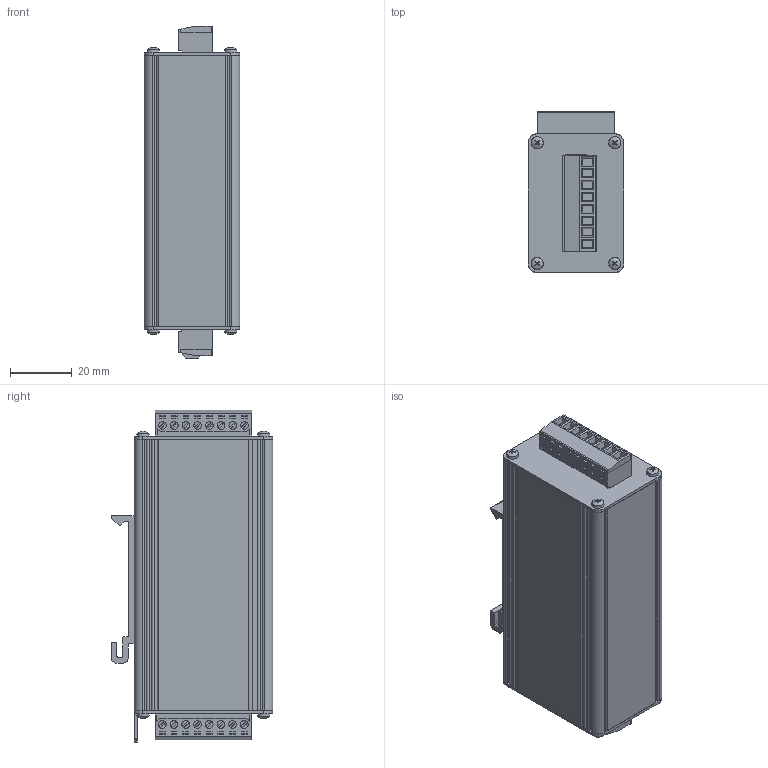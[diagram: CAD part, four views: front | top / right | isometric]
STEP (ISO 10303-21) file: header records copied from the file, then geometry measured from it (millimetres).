
FILE_DESCRIPTION(/* description */ (''),/* implementation_level */ '2;1');
FILE_NAME(/* name */ 'K:\PROJEKTY ROZPRACOVANÉ\MODELY DO KATALOGU\HT\3D - STEP\HT-D, NV4.stp',/* time_stamp */ '2021-07-15T09:39:02+02:00',/* author */ ('Melmen'),/* organization */ (''),/* preprocessor_version */ 'ST-DEVELOPER v18.1',/* originating_system */ 'Autodesk Inventor 2021',/* authorisation */ '');
FILE_SCHEMA (('AUTOMOTIVE_DESIGN { 1 0 10303 214 3 1 1 }'));
Length unit declared in the file: millimetre
Products named in the file (8): HT-D; HT; KONEKTOR DEGSON 15EDGK 3.81; KONEKTOR SAMEC; KONEKTOR SAMEC SOUČÁST; ISO 2009 - M1,6 x 2,5; KONEKTOR DEGSON 15EDGRC 3.81; ISO 7049 - ST 2,2 x 6,5 - C - H
Assembly tree (23 placements, depth 3):
  HT-D
    HT
    KONEKTOR DEGSON 15EDGK 3.81  x2
      KONEKTOR SAMEC
      KONEKTOR SAMEC SOUČÁST
      ISO 2009 - M1,6 x 2,5
    KONEKTOR DEGSON 15EDGRC 3.81  x2
    ISO 7049 - ST 2,2 x 6,5 - C - H  x8
Bounding box: 31 x 52.4 x 107.7 mm (x, y, z)
Volume: 128288.4 mm3; surface area: 38314.3 mm2
Topology: 31 solids, 31 shells, 1672 faces, 4348 edges, 2878 vertices
Faces by surface type: plane 1178, cylinder 272, cone 152, torus 62, sphere 8
Full cylindrical faces by diameter (mm): 0.968 x16, 1 x32, 1.171 x16, 1.6 x16, 1.685 x1, 1.9 x16, 2 x20, 2.2 x8, 2.5 x16
Entity records: 24269 total; most frequent: CARTESIAN_POINT 4308, ORIENTED_EDGE 4008, DIRECTION 4006, EDGE_CURVE 2004, LINE 1556, VECTOR 1556, VERTEX_POINT 1315, AXIS2_PLACEMENT_3D 1225
